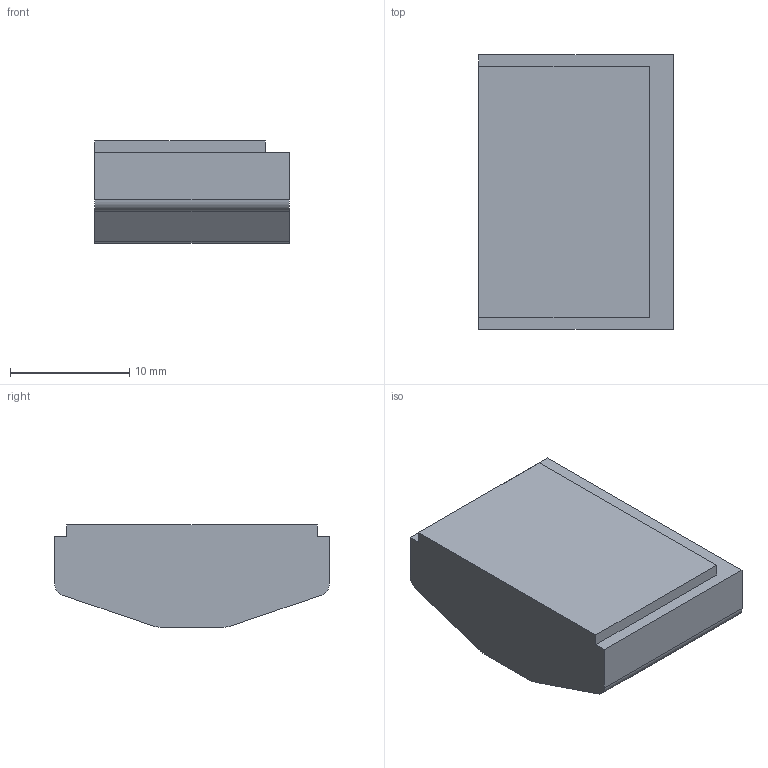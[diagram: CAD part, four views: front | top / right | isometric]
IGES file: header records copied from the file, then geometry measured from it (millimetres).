
Start section:  PTC IGES file: c:\works\pro\DV12\takakansi.igs
Global section: file name: c:\works\pro\DV12\takakansi.igs; native system: Pro/ENGINEER by Parametric Technology Corporation; preprocessor: 2001150; author: telimaa; organization: Unknown; date: 041205.163642; units: millimetre
Bounding box: 16.3 x 23 x 8.55 mm (x, y, z)
Surface area: 1279.1 mm2 (no closed solid volume)
Topology: 0 solids, 0 shells, 16 faces, 84 edges, 84 vertices
Faces by surface type: bspline 12, revolution 4
